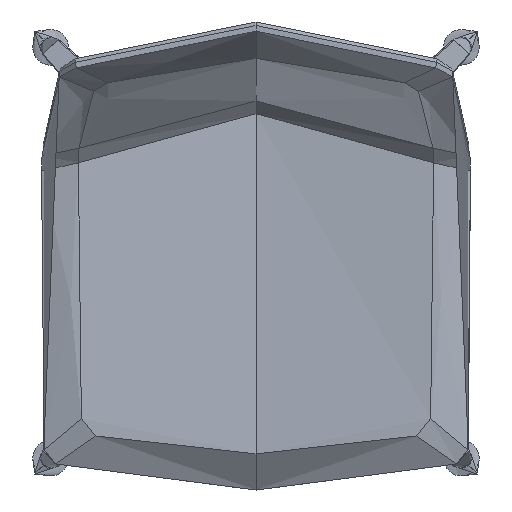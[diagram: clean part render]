
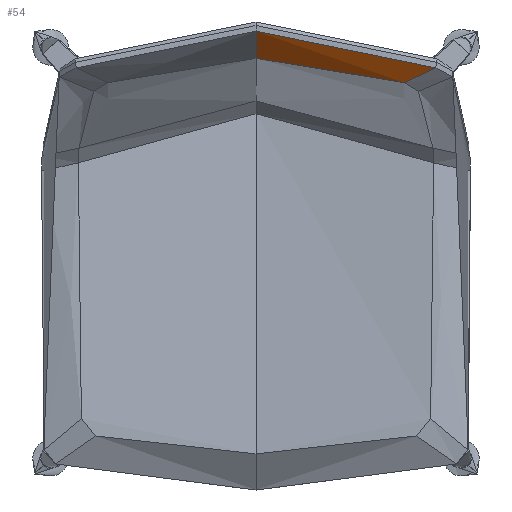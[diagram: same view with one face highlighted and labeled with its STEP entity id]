
A CAD part, top view. The second image highlights one B-rep face of the part: STEP entity #54.
In plain terms, the highlighted free-form (B-spline) face has degree [3, 4] with [6, 5] control points.
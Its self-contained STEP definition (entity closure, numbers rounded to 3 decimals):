
#54=ADVANCED_FACE('',(#207),#2131,.T.);
#207=FACE_OUTER_BOUND('',#360,.T.);
#360=EDGE_LOOP('',(#542,#543,#544,#545));
#542=ORIENTED_EDGE('',*,*,#1157,.T.);
#543=ORIENTED_EDGE('',*,*,#1159,.T.);
#544=ORIENTED_EDGE('',*,*,#1160,.T.);
#545=ORIENTED_EDGE('',*,*,#1158,.T.);
#1157=EDGE_CURVE('',#1856,#1855,#1606,.T.);
#1158=EDGE_CURVE('',#1847,#1856,#1607,.T.);
#1159=EDGE_CURVE('',#1855,#1857,#1608,.T.);
#1160=EDGE_CURVE('',#1857,#1847,#1609,.T.);
#1606=B_SPLINE_CURVE_WITH_KNOTS('',3,(#10354,#10355,#10356,#10357,#10358,
#10359,#10360,#10361,#10362,#10363,#10364,#10365,#10366,#10367,#10368,#10369,
#10370,#10371,#10372,#10373,#10374,#10375,#10376,#10377,#10378,#10379,#10380,
#10381,#10382,#10383,#10384,#10385),.UNSPECIFIED.,.F.,.F.,(4,1,1,1,1,1,
1,1,1,1,1,1,1,1,1,1,1,1,1,1,1,1,1,1,1,1,1,1,1,4),(-63.045,-54.908,
-46.771,-38.634,-33.752,-28.869,
-23.987,-19.105,-14.223,-12.801,
-11.379,-9.956,-8.534,-7.823,
-7.112,-6.4,-5.689,-4.978,
-4.267,-3.556,-3.2,-2.845,
-2.489,-2.133,-1.778,-1.422,
-1.067,-0.711,-0.356,0.),
 .UNSPECIFIED.);
#1607=B_SPLINE_CURVE_WITH_KNOTS('',3,(#10386,#10387,#10388,#10389,#10390,
#10391),.UNSPECIFIED.,.F.,.F.,(4,2,4),(0.,96.928,164.198),
 .UNSPECIFIED.);
#1608=B_SPLINE_CURVE_WITH_KNOTS('',3,(#10392,#10393,#10394,#10395,#10396,
#10397),.UNSPECIFIED.,.F.,.F.,(4,2,4),(-193.856,-96.928,
0.),.UNSPECIFIED.);
#1609=B_SPLINE_CURVE_WITH_KNOTS('',4,(#10398,#10399,#10400,#10401,#10402),
 .UNSPECIFIED.,.F.,.F.,(5,5),(-58.239,0.),.UNSPECIFIED.);
#1847=VERTEX_POINT('',#9878);
#1855=VERTEX_POINT('',#9886);
#1856=VERTEX_POINT('',#9887);
#1857=VERTEX_POINT('',#9888);
#2131=B_SPLINE_SURFACE_WITH_KNOTS('',3,4,((#4745,#4746,#4747,#4748,#4749),
(#4750,#4751,#4752,#4753,#4754),(#4755,#4756,#4757,#4758,#4759),(#4760,
#4761,#4762,#4763,#4764),(#4765,#4766,#4767,#4768,#4769),(#4770,#4771,#4772,
#4773,#4774)),.UNSPECIFIED.,.F.,.F.,.F.,(4,2,4),(5,5),(0.,96.928,
193.856),(0.,58.239),.UNSPECIFIED.);
#4745=CARTESIAN_POINT('',(0.,206.095,758.816));
#4746=CARTESIAN_POINT('',(0.,210.302,773.715));
#4747=CARTESIAN_POINT('',(0.,214.709,788.558));
#4748=CARTESIAN_POINT('',(0.,227.49,807.231));
#4749=CARTESIAN_POINT('',(0.,235.,807.231));
#4750=CARTESIAN_POINT('',(31.727,206.094,758.817));
#4751=CARTESIAN_POINT('',(31.995,210.302,773.715));
#4752=CARTESIAN_POINT('',(32.276,214.71,788.558));
#4753=CARTESIAN_POINT('',(32.879,227.494,807.231));
#4754=CARTESIAN_POINT('',(32.892,235.003,807.231));
#4755=CARTESIAN_POINT('',(63.455,203.057,758.816));
#4756=CARTESIAN_POINT('',(63.992,207.206,773.806));
#4757=CARTESIAN_POINT('',(64.555,211.542,788.743));
#4758=CARTESIAN_POINT('',(65.758,224.251,807.248));
#4759=CARTESIAN_POINT('',(65.782,231.684,807.231));
#4760=CARTESIAN_POINT('',(125.745,190.96,758.817));
#4761=CARTESIAN_POINT('',(126.767,194.838,773.984));
#4762=CARTESIAN_POINT('',(127.827,198.853,789.114));
#4763=CARTESIAN_POINT('',(130.192,211.045,807.316));
#4764=CARTESIAN_POINT('',(130.241,218.549,807.23));
#4765=CARTESIAN_POINT('',(156.307,181.894,758.816));
#4766=CARTESIAN_POINT('',(157.541,185.561,774.07));
#4767=CARTESIAN_POINT('',(158.811,189.325,789.298));
#4768=CARTESIAN_POINT('',(161.744,201.09,807.37));
#4769=CARTESIAN_POINT('',(161.807,208.733,807.23));
#4770=CARTESIAN_POINT('',(185.684,169.908,758.816));
#4771=CARTESIAN_POINT('',(187.068,173.298,774.027));
#4772=CARTESIAN_POINT('',(188.469,176.733,789.226));
#4773=CARTESIAN_POINT('',(192.002,188.265,807.436));
#4774=CARTESIAN_POINT('',(192.077,195.864,807.229));
#9878=CARTESIAN_POINT('',(0.,206.095,758.816));
#9886=CARTESIAN_POINT('',(192.077,195.864,807.229));
#9887=CARTESIAN_POINT('',(158.402,180.087,758.816));
#9888=CARTESIAN_POINT('',(0.,235.,807.231));
#10354=CARTESIAN_POINT('',(158.402,180.087,758.816));
#10355=CARTESIAN_POINT('',(159.782,180.237,761.143));
#10356=CARTESIAN_POINT('',(162.54,180.529,765.797));
#10357=CARTESIAN_POINT('',(166.725,181.153,772.738));
#10358=CARTESIAN_POINT('',(170.419,181.972,778.679));
#10359=CARTESIAN_POINT('',(173.598,182.906,783.633));
#10360=CARTESIAN_POINT('',(176.232,183.836,787.629));
#10361=CARTESIAN_POINT('',(178.898,184.951,791.557));
#10362=CARTESIAN_POINT('',(181.598,186.28,795.394));
#10363=CARTESIAN_POINT('',(183.685,187.494,798.232));
#10364=CARTESIAN_POINT('',(185.137,188.45,800.128));
#10365=CARTESIAN_POINT('',(185.941,189.012,801.156));
#10366=CARTESIAN_POINT('',(186.748,189.612,802.162));
#10367=CARTESIAN_POINT('',(187.419,190.148,802.975));
#10368=CARTESIAN_POINT('',(187.957,190.603,803.608));
#10369=CARTESIAN_POINT('',(188.36,190.958,804.072));
#10370=CARTESIAN_POINT('',(188.763,191.33,804.524));
#10371=CARTESIAN_POINT('',(189.164,191.719,804.962));
#10372=CARTESIAN_POINT('',(189.564,192.128,805.384));
#10373=CARTESIAN_POINT('',(189.961,192.561,805.784));
#10374=CARTESIAN_POINT('',(190.288,192.942,806.097));
#10375=CARTESIAN_POINT('',(190.547,193.263,806.33));
#10376=CARTESIAN_POINT('',(190.738,193.512,806.496));
#10377=CARTESIAN_POINT('',(190.928,193.77,806.651));
#10378=CARTESIAN_POINT('',(191.114,194.037,806.794));
#10379=CARTESIAN_POINT('',(191.295,194.314,806.922));
#10380=CARTESIAN_POINT('',(191.471,194.603,807.032));
#10381=CARTESIAN_POINT('',(191.64,194.904,807.122));
#10382=CARTESIAN_POINT('',(191.8,195.215,807.189));
#10383=CARTESIAN_POINT('',(191.948,195.535,807.228));
#10384=CARTESIAN_POINT('',(192.036,195.754,807.232));
#10385=CARTESIAN_POINT('',(192.077,195.864,807.229));
#10386=CARTESIAN_POINT('',(0.,206.095,758.816));
#10387=CARTESIAN_POINT('',(31.727,206.094,758.817));
#10388=CARTESIAN_POINT('',(63.455,203.057,758.816));
#10389=CARTESIAN_POINT('',(116.215,192.811,758.816));
#10390=CARTESIAN_POINT('',(137.55,187.159,758.816));
#10391=CARTESIAN_POINT('',(158.402,180.087,758.816));
#10392=CARTESIAN_POINT('',(192.077,195.864,807.229));
#10393=CARTESIAN_POINT('',(161.807,208.733,807.23));
#10394=CARTESIAN_POINT('',(130.241,218.549,807.23));
#10395=CARTESIAN_POINT('',(65.782,231.684,807.231));
#10396=CARTESIAN_POINT('',(32.892,235.003,807.231));
#10397=CARTESIAN_POINT('',(0.,235.,807.231));
#10398=CARTESIAN_POINT('',(0.,235.,807.231));
#10399=CARTESIAN_POINT('',(0.,227.49,807.231));
#10400=CARTESIAN_POINT('',(0.,214.709,788.558));
#10401=CARTESIAN_POINT('',(0.,210.302,773.715));
#10402=CARTESIAN_POINT('',(0.,206.095,758.816));
